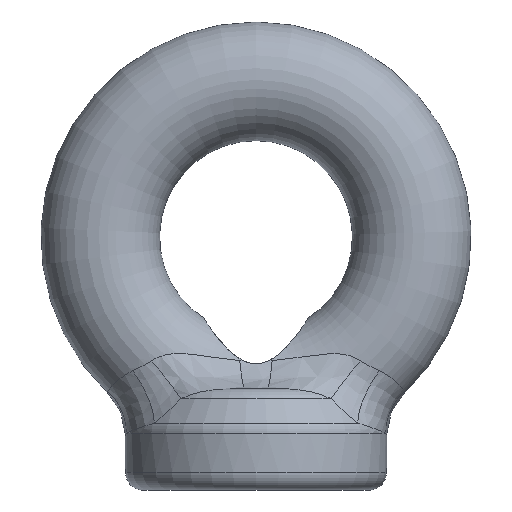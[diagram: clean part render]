
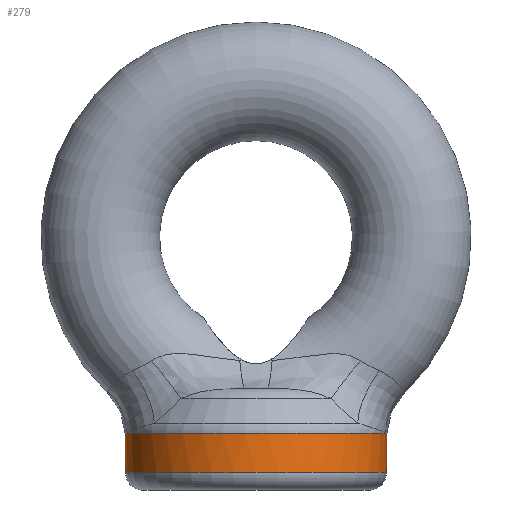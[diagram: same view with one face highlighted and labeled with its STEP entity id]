
A CAD part, front view. The second image highlights one B-rep face of the part: STEP entity #279.
In plain terms, the highlighted cylindrical face has radius 22 mm (diameter 44 mm), a partial arc.
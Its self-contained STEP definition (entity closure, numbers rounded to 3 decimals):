
#1 = VERTEX_POINT ( 'NONE', #376 ) ;
#13 = VERTEX_POINT ( 'NONE', #421 ) ;
#16 = EDGE_CURVE ( 'NONE', #13, #18, #398, .T. ) ;
#18 = VERTEX_POINT ( 'NONE', #399 ) ;
#65 = EDGE_CURVE ( 'NONE', #79, #82, #591, .T. ) ;
#74 = VERTEX_POINT ( 'NONE', #637 ) ;
#76 = EDGE_CURVE ( 'NONE', #1, #74, #630, .T. ) ;
#79 = VERTEX_POINT ( 'NONE', #621 ) ;
#82 = VERTEX_POINT ( 'NONE', #613 ) ;
#267 = EDGE_CURVE ( 'NONE', #1, #79, #4337, .T. ) ;
#268 = ORIENTED_EDGE ( 'NONE', *, *, #65, .T. ) ;
#269 = ORIENTED_EDGE ( 'NONE', *, *, #270, .T. ) ;
#270 = EDGE_CURVE ( 'NONE', #82, #18, #4400, .T. ) ;
#271 = EDGE_CURVE ( 'NONE', #13, #74, #4392, .T. ) ;
#279 = ADVANCED_FACE ( 'NONE', ( #4373 ), #4372, .T. ) ;
#280 = EDGE_LOOP ( 'NONE', ( #281, #282, #268, #269, #283, #284 ) ) ;
#281 = ORIENTED_EDGE ( 'NONE', *, *, #76, .F. ) ;
#282 = ORIENTED_EDGE ( 'NONE', *, *, #267, .T. ) ;
#283 = ORIENTED_EDGE ( 'NONE', *, *, #16, .F. ) ;
#284 = ORIENTED_EDGE ( 'NONE', *, *, #271, .T. ) ;
#376 = CARTESIAN_POINT ( 'NONE',  ( -22., 0., -39.645 ) ) ;
#395 = DIRECTION ( 'NONE',  ( 1., 0., 0. ) ) ;
#396 = DIRECTION ( 'NONE',  ( 0., 0., 1. ) ) ;
#397 = AXIS2_PLACEMENT_3D ( 'NONE', #404, #396, #395 ) ;
#398 = CIRCLE ( 'NONE', #397, 22. ) ;
#399 = CARTESIAN_POINT ( 'NONE',  ( 21.797, -2.981, -33.016 ) ) ;
#404 = CARTESIAN_POINT ( 'NONE',  ( 0., 0., -33.016 ) ) ;
#421 = CARTESIAN_POINT ( 'NONE',  ( -21.797, -2.981, -33.016 ) ) ;
#588 = DIRECTION ( 'NONE',  ( 0., 0., 1. ) ) ;
#589 = VECTOR ( 'NONE', #588, 1000. ) ;
#590 = CARTESIAN_POINT ( 'NONE',  ( 22., 0., 0. ) ) ;
#591 = LINE ( 'NONE', #590, #589 ) ;
#613 = CARTESIAN_POINT ( 'NONE',  ( 22., 0., -33.393 ) ) ;
#621 = CARTESIAN_POINT ( 'NONE',  ( 22., 0., -39.645 ) ) ;
#627 = DIRECTION ( 'NONE',  ( 0., 0., 1. ) ) ;
#628 = VECTOR ( 'NONE', #627, 1000. ) ;
#629 = CARTESIAN_POINT ( 'NONE',  ( -22., 0., 0. ) ) ;
#630 = LINE ( 'NONE', #629, #628 ) ;
#637 = CARTESIAN_POINT ( 'NONE',  ( -22., 0., -33.393 ) ) ;
#4334 = DIRECTION ( 'NONE',  ( 1., 0., 0. ) ) ;
#4335 = DIRECTION ( 'NONE',  ( 0., 0., 1. ) ) ;
#4336 = AXIS2_PLACEMENT_3D ( 'NONE', #4341, #4335, #4334 ) ;
#4337 = CIRCLE ( 'NONE', #4336, 22. ) ;
#4341 = CARTESIAN_POINT ( 'NONE',  ( 0., 0., -39.645 ) ) ;
#4370 = CARTESIAN_POINT ( 'NONE',  ( 0., 0., 0. ) ) ;
#4371 = AXIS2_PLACEMENT_3D ( 'NONE', #4370, #4377, #4432 ) ;
#4372 = CYLINDRICAL_SURFACE ( 'NONE', #4371, 22. ) ;
#4373 = FACE_OUTER_BOUND ( 'NONE', #280, .T. ) ;
#4377 = DIRECTION ( 'NONE',  ( 0., 0., 1. ) ) ;
#4385 = CARTESIAN_POINT ( 'NONE',  ( -22., 0., -33.393 ) ) ;
#4386 = CARTESIAN_POINT ( 'NONE',  ( -22., -0.499, -33.393 ) ) ;
#4387 = CARTESIAN_POINT ( 'NONE',  ( -21.983, -0.999, -33.362 ) ) ;
#4388 = CARTESIAN_POINT ( 'NONE',  ( -21.915, -2., -33.236 ) ) ;
#4389 = CARTESIAN_POINT ( 'NONE',  ( -21.864, -2.495, -33.141 ) ) ;
#4390 = CARTESIAN_POINT ( 'NONE',  ( -21.797, -2.981, -33.016 ) ) ;
#4392 = B_SPLINE_CURVE_WITH_KNOTS ( 'NONE', 3,
 ( #4390, #4389, #4388, #4387, #4386, #4385 ),
 .UNSPECIFIED., .F., .F.,
 ( 4, 2, 4 ),
 ( 0., 0.002, 0.003 ),
 .UNSPECIFIED. ) ;
#4393 = CARTESIAN_POINT ( 'NONE',  ( 21.797, -2.981, -33.016 ) ) ;
#4394 = CARTESIAN_POINT ( 'NONE',  ( 21.864, -2.494, -33.142 ) ) ;
#4395 = CARTESIAN_POINT ( 'NONE',  ( 21.915, -1.996, -33.236 ) ) ;
#4396 = CARTESIAN_POINT ( 'NONE',  ( 21.983, -0.999, -33.362 ) ) ;
#4397 = CARTESIAN_POINT ( 'NONE',  ( 22., -0.5, -33.393 ) ) ;
#4398 = CARTESIAN_POINT ( 'NONE',  ( 22., 0., -33.393 ) ) ;
#4400 = B_SPLINE_CURVE_WITH_KNOTS ( 'NONE', 3,
 ( #4398, #4397, #4396, #4395, #4394, #4393 ),
 .UNSPECIFIED., .F., .F.,
 ( 4, 2, 4 ),
 ( 0.003, 0.005, 0.006 ),
 .UNSPECIFIED. ) ;
#4432 = DIRECTION ( 'NONE',  ( 1., 0., 0. ) ) ;
